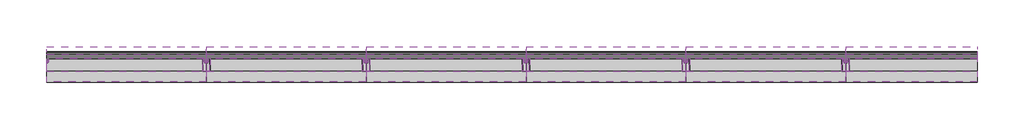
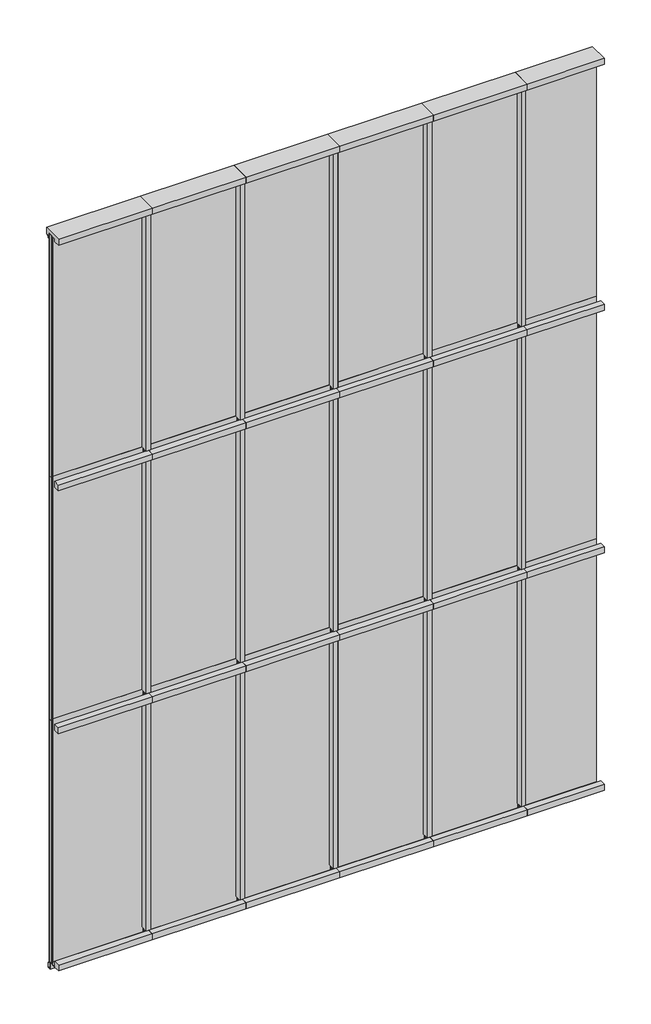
# One storey: 39 members, 18 plates.
"""IFC4 building model written with IfcOpenShell, lengths in millimetres."""

from ifc_helpers import new_model, si_unit, origin, place, context, project, spatial, transform, mapped, element, save
from components import rectangular_mullion_0f3db047, rectangular_mullion_6eaf41a5, rectangular_mullion_9e6fbf5d, rectangular_mullion_7f6d710d, rectangular_mullion_7864b501, rectangular_mullion_0d2aa3bb, rectangular_mullion_3286c803, rectangular_mullion_be314c14, rectangular_mullion_c1ca40f4, plate_593a4ae1, plate_c265510e

model = new_model("IFC4")

# Units and contexts
model_context = context("Model", 3, world=origin())
ifc_project = project(units=[si_unit("LENGTHUNIT", "METRE", prefix="MILLI")], contexts=[model_context])

# Site, building, storey
site = spatial("IfcSite", under=ifc_project)
building = spatial("IfcBuilding", under=site)
storey = spatial("IfcBuildingStorey", under=building, Name="Danpal-TP", Elevation=0.0)

# Members
placement = place(None, origin())
rectangular_mullion_shape = rectangular_mullion_0f3db047(model_context)
element("IfcMember", 1, ObjectType="Rectangular Mullion : Danpal_TP_Bottom-Mullion", at=placement, inside=storey, context=model_context, shape_type="MappedRepresentation", body=[
    mapped(rectangular_mullion_shape, transform((876.7822678, 2758.9341738, 0.0), x_axis=(0.0, 0.0, -1.0), y_axis=(0.0, -1.0, 0.0), z_axis=(-1.0, 0.0, 0.0))),
])
element("IfcMember", 2, ObjectType="Rectangular Mullion : Danpal_TP_Bottom-Mullion", at=placement, inside=storey, context=model_context, shape_type="MappedRepresentation", body=[
    mapped(rectangular_mullion_shape, transform((1477.7822678, 2758.9341738, 0.0), x_axis=(0.0, 0.0, -1.0), y_axis=(0.0, -1.0, 0.0), z_axis=(-1.0, 0.0, 0.0))),
])
element("IfcMember", 3, ObjectType="Rectangular Mullion : Danpal_TP_Bottom-Mullion", at=placement, inside=storey, context=model_context, shape_type="MappedRepresentation", body=[
    mapped(rectangular_mullion_shape, transform((2078.7822678, 2758.9341738, 0.0), x_axis=(0.0, 0.0, -1.0), y_axis=(0.0, -1.0, 0.0), z_axis=(-1.0, 0.0, 0.0))),
])
element("IfcMember", 4, ObjectType="Rectangular Mullion : Danpal_TP_Bottom-Mullion", at=placement, inside=storey, context=model_context, shape_type="MappedRepresentation", body=[
    mapped(rectangular_mullion_shape, transform((2679.7822678, 2758.9341738, 0.0), x_axis=(0.0, 0.0, -1.0), y_axis=(0.0, -1.0, 0.0), z_axis=(-1.0, 0.0, 0.0))),
])
element("IfcMember", 5, ObjectType="Rectangular Mullion : Danpal_TP_Bottom-Mullion", at=placement, inside=storey, context=model_context, shape_type="MappedRepresentation", body=[
    mapped(rectangular_mullion_shape, transform((3280.7822678, 2758.9341738, 0.0), x_axis=(0.0, 0.0, -1.0), y_axis=(0.0, -1.0, 0.0), z_axis=(-1.0, 0.0, 0.0))),
])
rectangular_mullion_2_shape = rectangular_mullion_6eaf41a5(model_context)
element("IfcMember", 6, ObjectType="Rectangular Mullion : Danpal_TP_Bottom-Mullion", at=placement, inside=storey, context=model_context, shape_type="MappedRepresentation", body=[
    mapped(rectangular_mullion_2_shape, transform((3881.7822678, 2758.9341738, 0.0), x_axis=(0.0, 0.0, -1.0), y_axis=(0.0, -1.0, 0.0), z_axis=(-1.0, 0.0, 0.0))),
])
rectangular_mullion_3_shape = rectangular_mullion_9e6fbf5d(model_context)
element("IfcMember", 7, ObjectType="Rectangular Mullion : Danpal_TP_Top-Mullion", at=placement, inside=storey, context=model_context, shape_type="MappedRepresentation", body=[
    mapped(rectangular_mullion_3_shape, transform((1477.7822678, 2758.9341738, 5000.0), x_axis=(0.0, 0.0, 1.0), y_axis=(0.0, -1.0, 0.0), z_axis=(1.0, 0.0, 0.0))),
])
element("IfcMember", 8, ObjectType="Rectangular Mullion : Danpal_TP_Top-Mullion", at=placement, inside=storey, context=model_context, shape_type="MappedRepresentation", body=[
    mapped(rectangular_mullion_3_shape, transform((2078.7822678, 2758.9341738, 5000.0), x_axis=(0.0, 0.0, 1.0), y_axis=(0.0, -1.0, 0.0), z_axis=(1.0, 0.0, 0.0))),
])
element("IfcMember", 9, ObjectType="Rectangular Mullion : Danpal_TP_Top-Mullion", at=placement, inside=storey, context=model_context, shape_type="MappedRepresentation", body=[
    mapped(rectangular_mullion_3_shape, transform((2679.7822678, 2758.9341738, 5000.0), x_axis=(0.0, 0.0, 1.0), y_axis=(0.0, -1.0, 0.0), z_axis=(1.0, 0.0, 0.0))),
])
element("IfcMember", 10, ObjectType="Rectangular Mullion : Danpal_TP_Top-Mullion", at=placement, inside=storey, context=model_context, shape_type="MappedRepresentation", body=[
    mapped(rectangular_mullion_3_shape, transform((3280.7822678, 2758.9341738, 5000.0), x_axis=(0.0, 0.0, 1.0), y_axis=(0.0, -1.0, 0.0), z_axis=(1.0, 0.0, 0.0))),
])
element("IfcMember", 11, ObjectType="Rectangular Mullion : Danpal_TP_Top-Mullion", at=placement, inside=storey, context=model_context, shape_type="MappedRepresentation", body=[
    mapped(rectangular_mullion_3_shape, transform((3881.7822678, 2758.9341738, 5000.0), x_axis=(0.0, 0.0, 1.0), y_axis=(0.0, -1.0, 0.0), z_axis=(1.0, 0.0, 0.0))),
])
rectangular_mullion_4_shape = rectangular_mullion_7f6d710d(model_context)
element("IfcMember", 12, ObjectType="Rectangular Mullion : Danpal_TP_Top-Mullion", at=placement, inside=storey, context=model_context, shape_type="MappedRepresentation", body=[
    mapped(rectangular_mullion_4_shape, transform((4376.7822678, 2758.9341738, 5000.0), x_axis=(0.0, 0.0, 1.0), y_axis=(0.0, -1.0, 0.0), z_axis=(1.0, 0.0, 0.0))),
])
rectangular_mullion_5_shape = rectangular_mullion_7864b501(model_context)
element("IfcMember", 13, ObjectType="Rectangular Mullion : Danpal_TP_Interal-Ver-Mullion", at=placement, inside=storey, context=model_context, shape_type="MappedRepresentation", body=[
    mapped(rectangular_mullion_5_shape, transform((1477.7822678, 2758.9341738, 84.0), x_axis=(1.0, 0.0, 0.0), y_axis=(0.0, -1.0, 0.0), z_axis=(0.0, 0.0, -1.0))),
])
element("IfcMember", 14, ObjectType="Rectangular Mullion : Danpal_TP_Interal-Ver-Mullion", at=placement, inside=storey, context=model_context, shape_type="MappedRepresentation", body=[
    mapped(rectangular_mullion_5_shape, transform((2078.7822678, 2758.9341738, 84.0), x_axis=(1.0, 0.0, 0.0), y_axis=(0.0, -1.0, 0.0), z_axis=(0.0, 0.0, -1.0))),
])
element("IfcMember", 15, ObjectType="Rectangular Mullion : Danpal_TP_Interal-Ver-Mullion", at=placement, inside=storey, context=model_context, shape_type="MappedRepresentation", body=[
    mapped(rectangular_mullion_5_shape, transform((2679.7822678, 2758.9341738, 84.0), x_axis=(1.0, 0.0, 0.0), y_axis=(0.0, -1.0, 0.0), z_axis=(0.0, 0.0, -1.0))),
])
element("IfcMember", 16, ObjectType="Rectangular Mullion : Danpal_TP_Interal-Ver-Mullion", at=placement, inside=storey, context=model_context, shape_type="MappedRepresentation", body=[
    mapped(rectangular_mullion_5_shape, transform((3280.7822678, 2758.9341738, 84.0), x_axis=(1.0, 0.0, 0.0), y_axis=(0.0, -1.0, 0.0), z_axis=(0.0, 0.0, -1.0))),
])
element("IfcMember", 17, ObjectType="Rectangular Mullion : Danpal_TP_Interal-Ver-Mullion", at=placement, inside=storey, context=model_context, shape_type="MappedRepresentation", body=[
    mapped(rectangular_mullion_5_shape, transform((3881.7822678, 2758.9341738, 84.0), x_axis=(1.0, 0.0, 0.0), y_axis=(0.0, -1.0, 0.0), z_axis=(0.0, 0.0, -1.0))),
])
rectangular_mullion_6_shape = rectangular_mullion_0d2aa3bb(model_context)
element("IfcMember", 18, ObjectType="Rectangular Mullion : Danpal_TP_Interal-Ver-Mullion", at=placement, inside=storey, context=model_context, shape_type="MappedRepresentation", body=[
    mapped(rectangular_mullion_6_shape, transform((1477.7822678, 2758.9341738, 1691.1294372), x_axis=(1.0, 0.0, 0.0), y_axis=(0.0, -1.0, 0.0), z_axis=(0.0, 0.0, -1.0))),
])
element("IfcMember", 19, ObjectType="Rectangular Mullion : Danpal_TP_Interal-Ver-Mullion", at=placement, inside=storey, context=model_context, shape_type="MappedRepresentation", body=[
    mapped(rectangular_mullion_6_shape, transform((2078.7822678, 2758.9341738, 1691.1294372), x_axis=(1.0, 0.0, 0.0), y_axis=(0.0, -1.0, 0.0), z_axis=(0.0, 0.0, -1.0))),
])
element("IfcMember", 20, ObjectType="Rectangular Mullion : Danpal_TP_Interal-Ver-Mullion", at=placement, inside=storey, context=model_context, shape_type="MappedRepresentation", body=[
    mapped(rectangular_mullion_6_shape, transform((2679.7822678, 2758.9341738, 1691.1294372), x_axis=(1.0, 0.0, 0.0), y_axis=(0.0, -1.0, 0.0), z_axis=(0.0, 0.0, -1.0))),
])
element("IfcMember", 21, ObjectType="Rectangular Mullion : Danpal_TP_Interal-Ver-Mullion", at=placement, inside=storey, context=model_context, shape_type="MappedRepresentation", body=[
    mapped(rectangular_mullion_6_shape, transform((3280.7822678, 2758.9341738, 1691.1294372), x_axis=(1.0, 0.0, 0.0), y_axis=(0.0, -1.0, 0.0), z_axis=(0.0, 0.0, -1.0))),
])
element("IfcMember", 22, ObjectType="Rectangular Mullion : Danpal_TP_Interal-Ver-Mullion", at=placement, inside=storey, context=model_context, shape_type="MappedRepresentation", body=[
    mapped(rectangular_mullion_6_shape, transform((3881.7822678, 2758.9341738, 1691.1294372), x_axis=(1.0, 0.0, 0.0), y_axis=(0.0, -1.0, 0.0), z_axis=(0.0, 0.0, -1.0))),
])
rectangular_mullion_7_shape = rectangular_mullion_3286c803(model_context)
element("IfcMember", 23, ObjectType="Rectangular Mullion : Danpal_TP_Interal-Ver-Mullion", at=placement, inside=storey, context=model_context, shape_type="MappedRepresentation", body=[
    mapped(rectangular_mullion_7_shape, transform((1477.7822678, 2758.9341738, 3335.0647186), x_axis=(1.0, 0.0, 0.0), y_axis=(0.0, -1.0, 0.0), z_axis=(0.0, 0.0, -1.0))),
])
element("IfcMember", 24, ObjectType="Rectangular Mullion : Danpal_TP_Interal-Ver-Mullion", at=placement, inside=storey, context=model_context, shape_type="MappedRepresentation", body=[
    mapped(rectangular_mullion_7_shape, transform((2078.7822678, 2758.9341738, 3335.0647186), x_axis=(1.0, 0.0, 0.0), y_axis=(0.0, -1.0, 0.0), z_axis=(0.0, 0.0, -1.0))),
])
element("IfcMember", 25, ObjectType="Rectangular Mullion : Danpal_TP_Interal-Ver-Mullion", at=placement, inside=storey, context=model_context, shape_type="MappedRepresentation", body=[
    mapped(rectangular_mullion_7_shape, transform((2679.7822678, 2758.9341738, 3335.0647186), x_axis=(1.0, 0.0, 0.0), y_axis=(0.0, -1.0, 0.0), z_axis=(0.0, 0.0, -1.0))),
])
element("IfcMember", 26, ObjectType="Rectangular Mullion : Danpal_TP_Interal-Ver-Mullion", at=placement, inside=storey, context=model_context, shape_type="MappedRepresentation", body=[
    mapped(rectangular_mullion_7_shape, transform((3280.7822678, 2758.9341738, 3335.0647186), x_axis=(1.0, 0.0, 0.0), y_axis=(0.0, -1.0, 0.0), z_axis=(0.0, 0.0, -1.0))),
])
element("IfcMember", 27, ObjectType="Rectangular Mullion : Danpal_TP_Interal-Ver-Mullion", at=placement, inside=storey, context=model_context, shape_type="MappedRepresentation", body=[
    mapped(rectangular_mullion_7_shape, transform((3881.7822678, 2758.9341738, 3335.0647186), x_axis=(1.0, 0.0, 0.0), y_axis=(0.0, -1.0, 0.0), z_axis=(0.0, 0.0, -1.0))),
])
rectangular_mullion_8_shape = rectangular_mullion_be314c14(model_context)
element("IfcMember", 28, ObjectType="Rectangular Mullion : Danpal_TP_Interal-Hor-Mullion", at=placement, inside=storey, context=model_context, shape_type="MappedRepresentation", body=[
    mapped(rectangular_mullion_8_shape, transform((1477.7822678, 2758.9341738, 1691.1294372), x_axis=(0.0, 0.0, 1.0), y_axis=(0.0, -1.0, 0.0), z_axis=(1.0, 0.0, 0.0))),
])
element("IfcMember", 29, ObjectType="Rectangular Mullion : Danpal_TP_Interal-Hor-Mullion", at=placement, inside=storey, context=model_context, shape_type="MappedRepresentation", body=[
    mapped(rectangular_mullion_8_shape, transform((1477.7822678, 2758.9341738, 3335.0647186), x_axis=(0.0, 0.0, 1.0), y_axis=(0.0, -1.0, 0.0), z_axis=(1.0, 0.0, 0.0))),
])
element("IfcMember", 30, ObjectType="Rectangular Mullion : Danpal_TP_Interal-Hor-Mullion", at=placement, inside=storey, context=model_context, shape_type="MappedRepresentation", body=[
    mapped(rectangular_mullion_8_shape, transform((2078.7822678, 2758.9341738, 1691.1294372), x_axis=(0.0, 0.0, 1.0), y_axis=(0.0, -1.0, 0.0), z_axis=(1.0, 0.0, 0.0))),
])
element("IfcMember", 31, ObjectType="Rectangular Mullion : Danpal_TP_Interal-Hor-Mullion", at=placement, inside=storey, context=model_context, shape_type="MappedRepresentation", body=[
    mapped(rectangular_mullion_8_shape, transform((2679.7822678, 2758.9341738, 1691.1294372), x_axis=(0.0, 0.0, 1.0), y_axis=(0.0, -1.0, 0.0), z_axis=(1.0, 0.0, 0.0))),
])
element("IfcMember", 32, ObjectType="Rectangular Mullion : Danpal_TP_Interal-Hor-Mullion", at=placement, inside=storey, context=model_context, shape_type="MappedRepresentation", body=[
    mapped(rectangular_mullion_8_shape, transform((3280.7822678, 2758.9341738, 1691.1294372), x_axis=(0.0, 0.0, 1.0), y_axis=(0.0, -1.0, 0.0), z_axis=(1.0, 0.0, 0.0))),
])
element("IfcMember", 33, ObjectType="Rectangular Mullion : Danpal_TP_Interal-Hor-Mullion", at=placement, inside=storey, context=model_context, shape_type="MappedRepresentation", body=[
    mapped(rectangular_mullion_8_shape, transform((3881.7822678, 2758.9341738, 1691.1294372), x_axis=(0.0, 0.0, 1.0), y_axis=(0.0, -1.0, 0.0), z_axis=(1.0, 0.0, 0.0))),
])
element("IfcMember", 34, ObjectType="Rectangular Mullion : Danpal_TP_Interal-Hor-Mullion", at=placement, inside=storey, context=model_context, shape_type="MappedRepresentation", body=[
    mapped(rectangular_mullion_8_shape, transform((2078.7822678, 2758.9341738, 3335.0647186), x_axis=(0.0, 0.0, 1.0), y_axis=(0.0, -1.0, 0.0), z_axis=(1.0, 0.0, 0.0))),
])
element("IfcMember", 35, ObjectType="Rectangular Mullion : Danpal_TP_Interal-Hor-Mullion", at=placement, inside=storey, context=model_context, shape_type="MappedRepresentation", body=[
    mapped(rectangular_mullion_8_shape, transform((2679.7822678, 2758.9341738, 3335.0647186), x_axis=(0.0, 0.0, 1.0), y_axis=(0.0, -1.0, 0.0), z_axis=(1.0, 0.0, 0.0))),
])
element("IfcMember", 36, ObjectType="Rectangular Mullion : Danpal_TP_Interal-Hor-Mullion", at=placement, inside=storey, context=model_context, shape_type="MappedRepresentation", body=[
    mapped(rectangular_mullion_8_shape, transform((3280.7822678, 2758.9341738, 3335.0647186), x_axis=(0.0, 0.0, 1.0), y_axis=(0.0, -1.0, 0.0), z_axis=(1.0, 0.0, 0.0))),
])
element("IfcMember", 37, ObjectType="Rectangular Mullion : Danpal_TP_Interal-Hor-Mullion", at=placement, inside=storey, context=model_context, shape_type="MappedRepresentation", body=[
    mapped(rectangular_mullion_8_shape, transform((3881.7822678, 2758.9341738, 3335.0647186), x_axis=(0.0, 0.0, 1.0), y_axis=(0.0, -1.0, 0.0), z_axis=(1.0, 0.0, 0.0))),
])
rectangular_mullion_9_shape = rectangular_mullion_c1ca40f4(model_context)
element("IfcMember", 38, ObjectType="Rectangular Mullion : Danpal_TP_Interal-Hor-Mullion", at=placement, inside=storey, context=model_context, shape_type="MappedRepresentation", body=[
    mapped(rectangular_mullion_9_shape, transform((4376.7822678, 2758.9341738, 1691.1294372), x_axis=(0.0, 0.0, 1.0), y_axis=(0.0, -1.0, 0.0), z_axis=(1.0, 0.0, 0.0))),
])
element("IfcMember", 39, ObjectType="Rectangular Mullion : Danpal_TP_Interal-Hor-Mullion", at=placement, inside=storey, context=model_context, shape_type="MappedRepresentation", body=[
    mapped(rectangular_mullion_9_shape, transform((4376.7822678, 2758.9341738, 3335.0647186), x_axis=(0.0, 0.0, 1.0), y_axis=(0.0, -1.0, 0.0), z_axis=(1.0, 0.0, 0.0))),
])

# Plates
plate_shape = plate_593a4ae1(model_context)
element("IfcPlate", 40, ObjectType="Walls_Curtain-Walls_Danpal_TP : Walls_Curtain-Walls_Danpal_TP", at=placement, inside=storey, context=model_context, shape_type="MappedRepresentation", body=[
    mapped(plate_shape, transform((1177.2822678, 2758.9341738, 47.1941557), x_axis=(1.0, 0.0, 0.0), y_axis=(0.0, 1.0, 0.0), z_axis=(0.0, 0.0, 1.0))),
])
element("IfcPlate", 41, ObjectType="Walls_Curtain-Walls_Danpal_TP : Walls_Curtain-Walls_Danpal_TP", at=placement, inside=storey, context=model_context, shape_type="MappedRepresentation", body=[
    mapped(plate_shape, transform((1778.2822678, 2758.9341738, 47.1941557), x_axis=(1.0, 0.0, 0.0), y_axis=(0.0, 1.0, 0.0), z_axis=(0.0, 0.0, 1.0))),
])
element("IfcPlate", 42, ObjectType="Walls_Curtain-Walls_Danpal_TP : Walls_Curtain-Walls_Danpal_TP", at=placement, inside=storey, context=model_context, shape_type="MappedRepresentation", body=[
    mapped(plate_shape, transform((2379.2822678, 2758.9341738, 47.1941557), x_axis=(1.0, 0.0, 0.0), y_axis=(0.0, 1.0, 0.0), z_axis=(0.0, 0.0, 1.0))),
])
element("IfcPlate", 43, ObjectType="Walls_Curtain-Walls_Danpal_TP : Walls_Curtain-Walls_Danpal_TP", at=placement, inside=storey, context=model_context, shape_type="MappedRepresentation", body=[
    mapped(plate_shape, transform((2980.2822678, 2758.9341738, 47.1941557), x_axis=(1.0, 0.0, 0.0), y_axis=(0.0, 1.0, 0.0), z_axis=(0.0, 0.0, 1.0))),
])
element("IfcPlate", 44, ObjectType="Walls_Curtain-Walls_Danpal_TP : Walls_Curtain-Walls_Danpal_TP", at=placement, inside=storey, context=model_context, shape_type="MappedRepresentation", body=[
    mapped(plate_shape, transform((3581.2822678, 2758.9341738, 47.1941557), x_axis=(1.0, 0.0, 0.0), y_axis=(0.0, 1.0, 0.0), z_axis=(0.0, 0.0, 1.0))),
])
element("IfcPlate", 45, ObjectType="Walls_Curtain-Walls_Danpal_TP : Walls_Curtain-Walls_Danpal_TP", at=placement, inside=storey, context=model_context, shape_type="MappedRepresentation", body=[
    mapped(plate_shape, transform((1177.2822678, 2758.9341738, 1691.1294372), x_axis=(1.0, 0.0, 0.0), y_axis=(0.0, 1.0, 0.0), z_axis=(0.0, 0.0, 1.0))),
])
element("IfcPlate", 46, ObjectType="Walls_Curtain-Walls_Danpal_TP : Walls_Curtain-Walls_Danpal_TP", at=placement, inside=storey, context=model_context, shape_type="MappedRepresentation", body=[
    mapped(plate_shape, transform((1778.2822678, 2758.9341738, 1691.1294372), x_axis=(1.0, 0.0, 0.0), y_axis=(0.0, 1.0, 0.0), z_axis=(0.0, 0.0, 1.0))),
])
element("IfcPlate", 47, ObjectType="Walls_Curtain-Walls_Danpal_TP : Walls_Curtain-Walls_Danpal_TP", at=placement, inside=storey, context=model_context, shape_type="MappedRepresentation", body=[
    mapped(plate_shape, transform((2379.2822678, 2758.9341738, 1691.1294372), x_axis=(1.0, 0.0, 0.0), y_axis=(0.0, 1.0, 0.0), z_axis=(0.0, 0.0, 1.0))),
])
element("IfcPlate", 48, ObjectType="Walls_Curtain-Walls_Danpal_TP : Walls_Curtain-Walls_Danpal_TP", at=placement, inside=storey, context=model_context, shape_type="MappedRepresentation", body=[
    mapped(plate_shape, transform((2980.2822678, 2758.9341738, 1691.1294372), x_axis=(1.0, 0.0, 0.0), y_axis=(0.0, 1.0, 0.0), z_axis=(0.0, 0.0, 1.0))),
])
element("IfcPlate", 49, ObjectType="Walls_Curtain-Walls_Danpal_TP : Walls_Curtain-Walls_Danpal_TP", at=placement, inside=storey, context=model_context, shape_type="MappedRepresentation", body=[
    mapped(plate_shape, transform((3581.2822678, 2758.9341738, 1691.1294372), x_axis=(1.0, 0.0, 0.0), y_axis=(0.0, 1.0, 0.0), z_axis=(0.0, 0.0, 1.0))),
])
element("IfcPlate", 50, ObjectType="Walls_Curtain-Walls_Danpal_TP : Walls_Curtain-Walls_Danpal_TP", at=placement, inside=storey, context=model_context, shape_type="MappedRepresentation", body=[
    mapped(plate_shape, transform((1177.2822678, 2758.9341738, 3335.0647186), x_axis=(1.0, 0.0, 0.0), y_axis=(0.0, 1.0, 0.0), z_axis=(0.0, 0.0, 1.0))),
])
element("IfcPlate", 51, ObjectType="Walls_Curtain-Walls_Danpal_TP : Walls_Curtain-Walls_Danpal_TP", at=placement, inside=storey, context=model_context, shape_type="MappedRepresentation", body=[
    mapped(plate_shape, transform((1778.2822678, 2758.9341738, 3335.0647186), x_axis=(1.0, 0.0, 0.0), y_axis=(0.0, 1.0, 0.0), z_axis=(0.0, 0.0, 1.0))),
])
element("IfcPlate", 52, ObjectType="Walls_Curtain-Walls_Danpal_TP : Walls_Curtain-Walls_Danpal_TP", at=placement, inside=storey, context=model_context, shape_type="MappedRepresentation", body=[
    mapped(plate_shape, transform((2379.2822678, 2758.9341738, 3335.0647186), x_axis=(1.0, 0.0, 0.0), y_axis=(0.0, 1.0, 0.0), z_axis=(0.0, 0.0, 1.0))),
])
element("IfcPlate", 53, ObjectType="Walls_Curtain-Walls_Danpal_TP : Walls_Curtain-Walls_Danpal_TP", at=placement, inside=storey, context=model_context, shape_type="MappedRepresentation", body=[
    mapped(plate_shape, transform((2980.2822678, 2758.9341738, 3335.0647186), x_axis=(1.0, 0.0, 0.0), y_axis=(0.0, 1.0, 0.0), z_axis=(0.0, 0.0, 1.0))),
])
element("IfcPlate", 54, ObjectType="Walls_Curtain-Walls_Danpal_TP : Walls_Curtain-Walls_Danpal_TP", at=placement, inside=storey, context=model_context, shape_type="MappedRepresentation", body=[
    mapped(plate_shape, transform((3581.2822678, 2758.9341738, 3335.0647186), x_axis=(1.0, 0.0, 0.0), y_axis=(0.0, 1.0, 0.0), z_axis=(0.0, 0.0, 1.0))),
])
plate_2_shape = plate_c265510e(model_context)
element("IfcPlate", 55, ObjectType="Walls_Curtain-Walls_Danpal_TP : Walls_Curtain-Walls_Danpal_TP", at=placement, inside=storey, context=model_context, shape_type="MappedRepresentation", body=[
    mapped(plate_2_shape, transform((4129.2822678, 2758.9341738, 47.1941557), x_axis=(1.0, 0.0, 0.0), y_axis=(0.0, 1.0, 0.0), z_axis=(0.0, 0.0, 1.0))),
])
element("IfcPlate", 56, ObjectType="Walls_Curtain-Walls_Danpal_TP : Walls_Curtain-Walls_Danpal_TP", at=placement, inside=storey, context=model_context, shape_type="MappedRepresentation", body=[
    mapped(plate_2_shape, transform((4129.2822678, 2758.9341738, 1691.1294372), x_axis=(1.0, 0.0, 0.0), y_axis=(0.0, 1.0, 0.0), z_axis=(0.0, 0.0, 1.0))),
])
element("IfcPlate", 57, ObjectType="Walls_Curtain-Walls_Danpal_TP : Walls_Curtain-Walls_Danpal_TP", at=placement, inside=storey, context=model_context, shape_type="MappedRepresentation", body=[
    mapped(plate_2_shape, transform((4129.2822678, 2758.9341738, 3335.0647186), x_axis=(1.0, 0.0, 0.0), y_axis=(0.0, 1.0, 0.0), z_axis=(0.0, 0.0, 1.0))),
])

save(model, "model.ifc")
